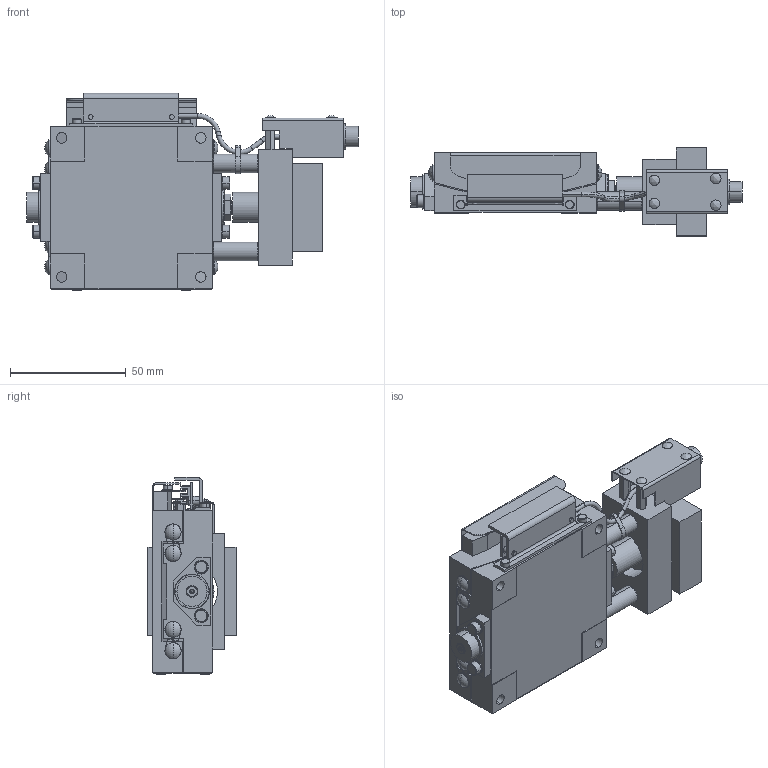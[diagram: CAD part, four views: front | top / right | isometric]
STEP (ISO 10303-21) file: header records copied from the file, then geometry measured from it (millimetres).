
FILE_DESCRIPTION (( 'STEP AP203' ), '1' );
FILE_NAME ('KGB07096AMV-RS38.STEP', '2024-03-25T09:35:26', ( '' ), ( '' ), 'SwSTEP 2.0', 'SolidWorks 2017', '' );
FILE_SCHEMA (( 'CONFIG_CONTROL_DESIGN' ));
Length unit declared in the file: millimetre
Products named in the file (6): KGB-70-M-6-R; KGB-TOP-07096-R; KGB-70-S38_CADENAS; 60-S38_C; KGB07096AMV-RS38; KGB-BASE-07096-R
Assembly tree (5 placements, depth 2):
  KGB07096AMV-RS38
    KGB-BASE-07096-R
    KGB-TOP-07096-R
    KGB-70-S38_CADENAS
    KGB-70-M-6-R
    60-S38_C
Bounding box: 143.2 x 38 x 85.1 mm (x, y, z)
Volume: 166331.7 mm3; surface area: 60264.4 mm2
Topology: 8 solids, 44 shells, 1259 faces, 3099 edges, 1986 vertices
Faces by surface type: plane 658, cylinder 427, cone 106, torus 36, sphere 20, bspline 12
Entity records: 38191 total; most frequent: CARTESIAN_POINT 7102, DIRECTION 6581, ORIENTED_EDGE 6074, EDGE_CURVE 3037, AXIS2_PLACEMENT_3D 2313, VERTEX_POINT 1986, LINE 1955, VECTOR 1955
